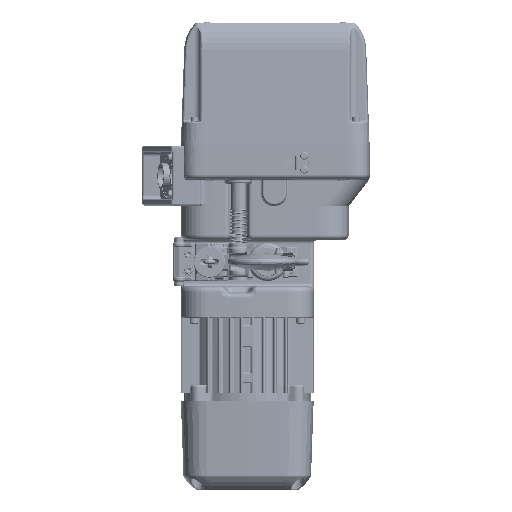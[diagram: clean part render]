
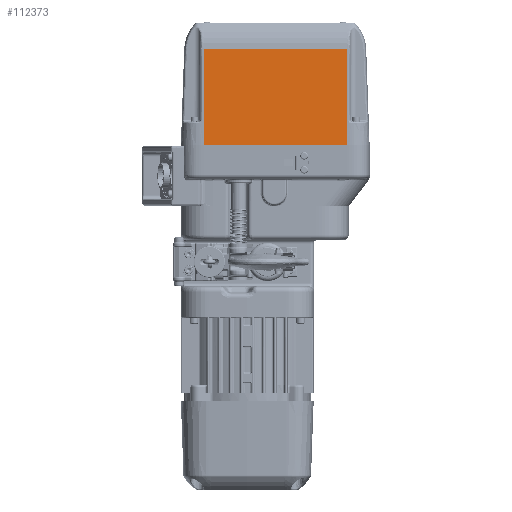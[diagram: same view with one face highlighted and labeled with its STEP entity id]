
A CAD part, front view. The second image highlights one B-rep face of the part: STEP entity #112373.
In plain terms, the highlighted planar face has unit normal (0, -0.999, 0.035).
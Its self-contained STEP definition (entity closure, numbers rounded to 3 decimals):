
#11936 = ORIENTED_EDGE ( 'NONE', *, *, #26576, .F. ) ;
#12359 = DIRECTION ( 'NONE',  ( -1., 0., 0. ) ) ;
#16490 = VECTOR ( 'NONE', #67172, 1000. ) ;
#18746 = VECTOR ( 'NONE', #156299, 1000. ) ;
#20567 = PLANE ( 'NONE',  #122233 ) ;
#21178 = ORIENTED_EDGE ( 'NONE', *, *, #75077, .T. ) ;
#23386 = VERTEX_POINT ( 'NONE', #130931 ) ;
#25443 = EDGE_CURVE ( 'NONE', #74335, #23386, #105291, .T. ) ;
#26576 = EDGE_CURVE ( 'NONE', #23386, #78545, #27968, .T. ) ;
#27968 = LINE ( 'NONE', #141538, #16490 ) ;
#33939 = LINE ( 'NONE', #94896, #46476 ) ;
#34749 = FACE_OUTER_BOUND ( 'NONE', #162453, .T. ) ;
#39751 = VERTEX_POINT ( 'NONE', #114260 ) ;
#46476 = VECTOR ( 'NONE', #121606, 1000. ) ;
#63093 = CARTESIAN_POINT ( 'NONE',  ( 81.847, -79.64, 110.534 ) ) ;
#67172 = DIRECTION ( 'NONE',  ( -1., 0., 0. ) ) ;
#70670 = DIRECTION ( 'NONE',  ( 0., -0.999, 0.035 ) ) ;
#74335 = VERTEX_POINT ( 'NONE', #63093 ) ;
#75077 = EDGE_CURVE ( 'NONE', #74335, #39751, #139296, .T. ) ;
#76368 = ORIENTED_EDGE ( 'NONE', *, *, #78862, .T. ) ;
#78545 = VERTEX_POINT ( 'NONE', #123463 ) ;
#78862 = EDGE_CURVE ( 'NONE', #39751, #78545, #33939, .T. ) ;
#83190 = CARTESIAN_POINT ( 'NONE',  ( 0., -83.5, 0. ) ) ;
#85572 = VECTOR ( 'NONE', #12359, 1000. ) ;
#85648 = DIRECTION ( 'NONE',  ( 0., -0.035, -0.999 ) ) ;
#94896 = CARTESIAN_POINT ( 'NONE',  ( -81.847, -83.5, 0. ) ) ;
#102008 = ORIENTED_EDGE ( 'NONE', *, *, #25443, .F. ) ;
#105291 = LINE ( 'NONE', #127883, #18746 ) ;
#112373 = ADVANCED_FACE ( 'NONE', ( #34749 ), #20567, .T. ) ;
#114260 = CARTESIAN_POINT ( 'NONE',  ( -81.847, -79.64, 110.534 ) ) ;
#121606 = DIRECTION ( 'NONE',  ( 0., -0.035, -0.999 ) ) ;
#122233 = AXIS2_PLACEMENT_3D ( 'NONE', #83190, #70670, #85648 ) ;
#123463 = CARTESIAN_POINT ( 'NONE',  ( -81.847, -83.5, 0. ) ) ;
#126757 = CARTESIAN_POINT ( 'NONE',  ( 81.847, -79.64, 110.534 ) ) ;
#127883 = CARTESIAN_POINT ( 'NONE',  ( 81.847, -83.5, 0. ) ) ;
#130931 = CARTESIAN_POINT ( 'NONE',  ( 81.847, -83.5, 0. ) ) ;
#139296 = LINE ( 'NONE', #126757, #85572 ) ;
#141538 = CARTESIAN_POINT ( 'NONE',  ( 0., -83.5, 0. ) ) ;
#156299 = DIRECTION ( 'NONE',  ( 0., -0.035, -0.999 ) ) ;
#162453 = EDGE_LOOP ( 'NONE', ( #21178, #76368, #11936, #102008 ) ) ;
